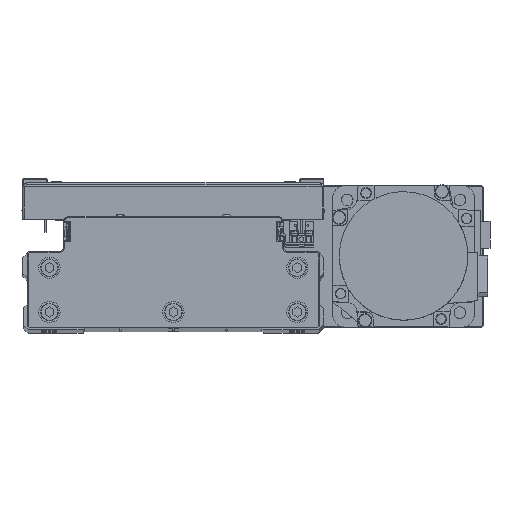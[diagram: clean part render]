
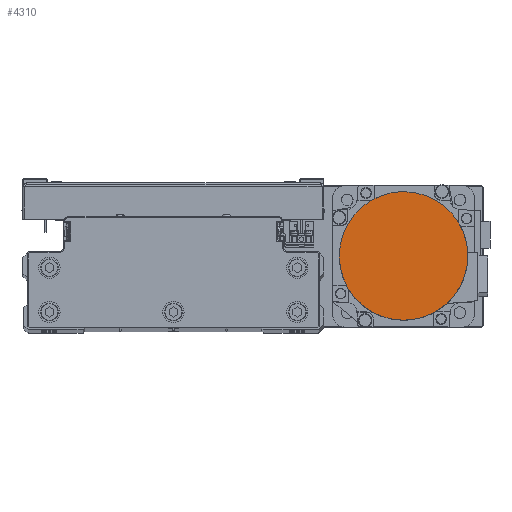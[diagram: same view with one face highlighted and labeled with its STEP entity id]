
A CAD part, top view. The second image highlights one B-rep face of the part: STEP entity #4310.
In plain terms, the highlighted planar face has unit normal (0, 0, 1) as drawn and (0, 0, -1) by its records, which use the part's own axes.
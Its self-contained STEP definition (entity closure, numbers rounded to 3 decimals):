
#335 = CARTESIAN_POINT ( 'NONE',  ( -28.862, -22.143, -122.2 ) ) ;
#1042 = EDGE_LOOP ( 'NONE', ( #12365, #13861, #11407, #8973 ) ) ;
#2154 = CARTESIAN_POINT ( 'NONE',  ( -11.696, 34.446, -122.2 ) ) ;
#2364 = CARTESIAN_POINT ( 'NONE',  ( -36.3, 0., -122.2 ) ) ;
#3780 = CARTESIAN_POINT ( 'NONE',  ( -34.446, -11.696, -122.2 ) ) ;
#3994 = CARTESIAN_POINT ( 'NONE',  ( 0., -36.3, -122.2 ) ) ;
#4310 = ADVANCED_FACE ( 'NONE', ( #16269 ), #30202, .F. ) ;
#4409 = VERTEX_POINT ( 'NONE', #31106 ) ;
#5341 = CARTESIAN_POINT ( 'NONE',  ( 0., 0., -122.2 ) ) ;
#5568 = CARTESIAN_POINT ( 'NONE',  ( -2.376, 36.3, -122.2 ) ) ;
#5813 = CARTESIAN_POINT ( 'NONE',  ( -35.139, 9.412, -122.2 ) ) ;
#5837 = VERTEX_POINT ( 'NONE', #43531 ) ;
#7155 = CARTESIAN_POINT ( 'NONE',  ( 0., 0., -122.2 ) ) ;
#7176 = CARTESIAN_POINT ( 'NONE',  ( -36.3, 0., -122.2 ) ) ;
#7180 = AXIS2_PLACEMENT_3D ( 'NONE', #5341, #19244, #33181 ) ;
#7212 = CARTESIAN_POINT ( 'NONE',  ( -36.3, -2.376, -122.2 ) ) ;
#7428 = CARTESIAN_POINT ( 'NONE',  ( -9.412, -35.139, -122.2 ) ) ;
#8973 = ORIENTED_EDGE ( 'NONE', *, *, #20029, .F. ) ;
#9214 = CARTESIAN_POINT ( 'NONE',  ( -31.502, 18.192, -122.2 ) ) ;
#10862 = CARTESIAN_POINT ( 'NONE',  ( -18.192, -31.502, -122.2 ) ) ;
#11407 = ORIENTED_EDGE ( 'NONE', *, *, #24833, .F. ) ;
#12365 = ORIENTED_EDGE ( 'NONE', *, *, #39199, .F. ) ;
#12472 = VERTEX_POINT ( 'NONE', #7176 ) ;
#12635 = CARTESIAN_POINT ( 'NONE',  ( -23.988, 27.348, -122.2 ) ) ;
#12847 = DIRECTION ( 'NONE',  ( 0., 0., 1. ) ) ;
#13861 = ORIENTED_EDGE ( 'NONE', *, *, #19857, .F. ) ;
#14261 = CARTESIAN_POINT ( 'NONE',  ( -27.348, -23.988, -122.2 ) ) ;
#16076 = CARTESIAN_POINT ( 'NONE',  ( -16.086, 32.628, -122.2 ) ) ;
#16269 = FACE_OUTER_BOUND ( 'NONE', #1042, .T. ) ;
#17684 = CARTESIAN_POINT ( 'NONE',  ( -32.628, -16.086, -122.2 ) ) ;
#18056 = CIRCLE ( 'NONE', #43568, 36.3 ) ;
#19244 = DIRECTION ( 'NONE',  ( 0., 0., 1. ) ) ;
#19482 = CARTESIAN_POINT ( 'NONE',  ( -4.752, 36.066, -122.2 ) ) ;
#19720 = CARTESIAN_POINT ( 'NONE',  ( -36.066, 4.752, -122.2 ) ) ;
#19857 = EDGE_CURVE ( 'NONE', #12472, #40302, #31876, .T. ) ;
#20029 = EDGE_CURVE ( 'NONE', #5837, #4409, #26860, .T. ) ;
#21069 = DIRECTION ( 'NONE',  ( 0., 0., 1. ) ) ;
#21121 = CARTESIAN_POINT ( 'NONE',  ( -36.066, -4.752, -122.2 ) ) ;
#21334 = CARTESIAN_POINT ( 'NONE',  ( -4.752, -36.066, -122.2 ) ) ;
#23135 = CARTESIAN_POINT ( 'NONE',  ( -32.628, 16.086, -122.2 ) ) ;
#24788 = CARTESIAN_POINT ( 'NONE',  ( -16.086, -32.628, -122.2 ) ) ;
#24833 = EDGE_CURVE ( 'NONE', #4409, #12472, #34191, .T. ) ;
#26574 = CARTESIAN_POINT ( 'NONE',  ( -27.348, 23.988, -122.2 ) ) ;
#26795 = DIRECTION ( 'NONE',  ( 1., 0., 0. ) ) ;
#26860 = CIRCLE ( 'NONE', #7180, 36.3 ) ;
#27341 = AXIS2_PLACEMENT_3D ( 'NONE', #44112, #12847, #26795 ) ;
#28206 = CARTESIAN_POINT ( 'NONE',  ( -23.988, -27.348, -122.2 ) ) ;
#30001 = CARTESIAN_POINT ( 'NONE',  ( -18.192, 31.502, -122.2 ) ) ;
#30202 = PLANE ( 'NONE',  #27341 ) ;
#31106 = CARTESIAN_POINT ( 'NONE',  ( 0., 36.3, -122.2 ) ) ;
#31613 = CARTESIAN_POINT ( 'NONE',  ( -31.502, -18.192, -122.2 ) ) ;
#31876 = B_SPLINE_CURVE_WITH_KNOTS ( 'NONE', 3,
 ( #38465, #7212, #21121, #35051, #3780, #17684, #31613, #335, #14261, #28206, #42109, #10862, #24788, #38696, #7428, #21334, #35261, #3994 ),
 .UNSPECIFIED., .F., .F.,
 ( 4, 2, 2, 2, 2, 2, 2, 2, 4 ),
 ( 0., 0.125, 0.25, 0.375, 0.5, 0.625, 0.75, 0.875, 1. ),
 .UNSPECIFIED. ) ;
#32888 = CARTESIAN_POINT ( 'NONE',  ( 0., -36.3, -122.2 ) ) ;
#33181 = DIRECTION ( 'NONE',  ( -1., 0., 0. ) ) ;
#33426 = CARTESIAN_POINT ( 'NONE',  ( -9.412, 35.139, -122.2 ) ) ;
#33649 = CARTESIAN_POINT ( 'NONE',  ( -36.3, 2.376, -122.2 ) ) ;
#34191 = B_SPLINE_CURVE_WITH_KNOTS ( 'NONE', 3,
 ( #36837, #5568, #19482, #33426, #2154, #16076, #30001, #43906, #12635, #26574, #40468, #9214, #23135, #37079, #5813, #19720, #33649, #2364 ),
 .UNSPECIFIED., .F., .F.,
 ( 4, 2, 2, 2, 2, 2, 2, 2, 4 ),
 ( 0., 0.125, 0.25, 0.375, 0.5, 0.625, 0.75, 0.875, 1. ),
 .UNSPECIFIED. ) ;
#35001 = DIRECTION ( 'NONE',  ( -1., 0., 0. ) ) ;
#35051 = CARTESIAN_POINT ( 'NONE',  ( -35.139, -9.412, -122.2 ) ) ;
#35261 = CARTESIAN_POINT ( 'NONE',  ( -2.376, -36.3, -122.2 ) ) ;
#36837 = CARTESIAN_POINT ( 'NONE',  ( 0., 36.3, -122.2 ) ) ;
#37079 = CARTESIAN_POINT ( 'NONE',  ( -34.446, 11.696, -122.2 ) ) ;
#38465 = CARTESIAN_POINT ( 'NONE',  ( -36.3, 0., -122.2 ) ) ;
#38696 = CARTESIAN_POINT ( 'NONE',  ( -11.696, -34.446, -122.2 ) ) ;
#39199 = EDGE_CURVE ( 'NONE', #40302, #5837, #18056, .T. ) ;
#40302 = VERTEX_POINT ( 'NONE', #32888 ) ;
#40468 = CARTESIAN_POINT ( 'NONE',  ( -28.862, 22.143, -122.2 ) ) ;
#42109 = CARTESIAN_POINT ( 'NONE',  ( -22.143, -28.862, -122.2 ) ) ;
#43531 = CARTESIAN_POINT ( 'NONE',  ( 36.3, 0., -122.2 ) ) ;
#43568 = AXIS2_PLACEMENT_3D ( 'NONE', #7155, #21069, #35001 ) ;
#43906 = CARTESIAN_POINT ( 'NONE',  ( -22.143, 28.862, -122.2 ) ) ;
#44112 = CARTESIAN_POINT ( 'NONE',  ( 0., 0., -122.2 ) ) ;
